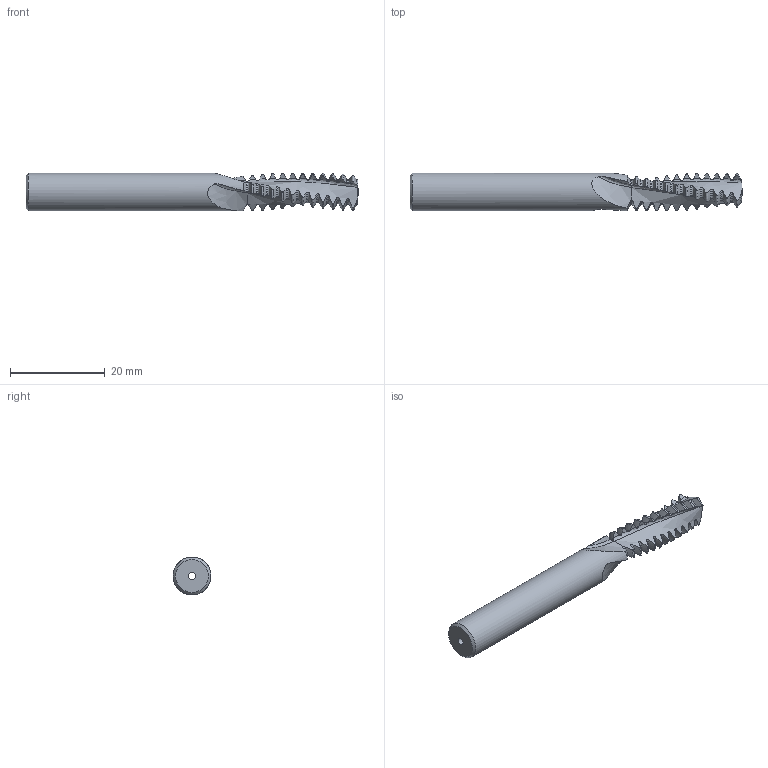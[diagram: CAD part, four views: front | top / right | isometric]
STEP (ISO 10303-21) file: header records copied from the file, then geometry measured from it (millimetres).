
FILE_DESCRIPTION(/* description */ (''),/* implementation_level */ '2;1');
FILE_NAME(/* name */ '00032248-STEP',/* time_stamp */ '2024-02-20T08:43:33+01:00',/* author */ (''),/* organization */ (''),/* preprocessor_version */ 'ST-DEVELOPER v16.5',/* originating_system */ 'HiCAD 2017 2201.0 Build 268',/* authorisation */ '');
FILE_SCHEMA (('AUTOMOTIVE_DESIGN { 1 0 10303 214 1 1 1 1 }'));
Length unit declared in the file: millimetre
Products named in the file (2): Root; ROTATIONSTEIL_0
Assembly tree (1 placements, depth 2):
  Root
    ROTATIONSTEIL_0
Bounding box: 70 x 8 x 8 mm (x, y, z)
Volume: 2574 mm3; surface area: 2126.5 mm2
Topology: 1 solids, 1 shells, 260 faces, 843 edges, 585 vertices
Faces by surface type: torus 102, cone 70, bspline 48, cylinder 38, plane 2
Full cylindrical faces by diameter (mm): 1.5 x1, 8 x1
Entity records: 29060 total; most frequent: CARTESIAN_POINT 15075, PRESENTATION_STYLE_ASSIGNMENT 1673, COLOUR_RGB 1673, DRAUGHTING_PRE_DEFINED_CURVE_FONT 1672, CURVE_STYLE 1672, OVER_RIDING_STYLED_ITEM 1672, ORIENTED_EDGE 1672, DIRECTION 856
